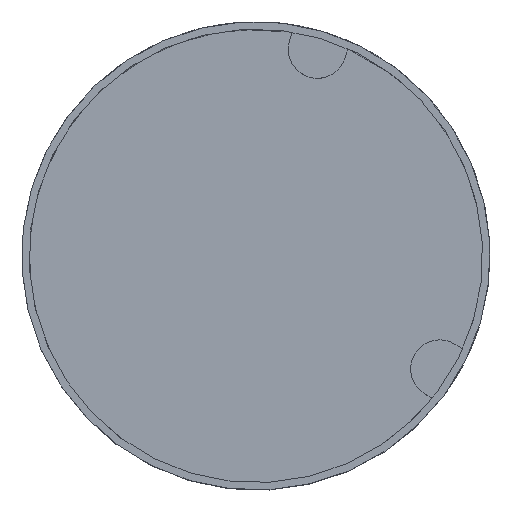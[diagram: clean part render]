
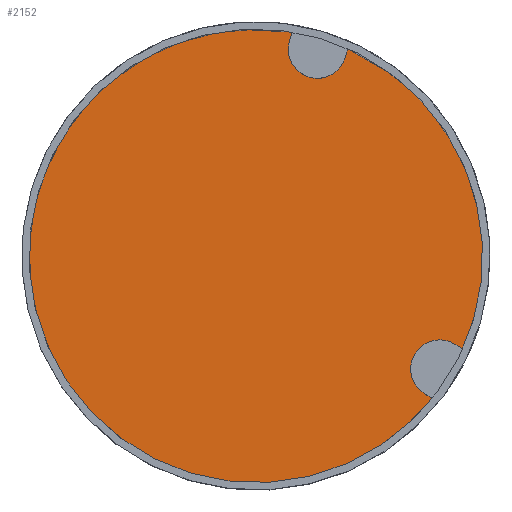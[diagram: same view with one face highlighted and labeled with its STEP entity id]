
A CAD part, top view. The second image highlights one B-rep face of the part: STEP entity #2152.
In plain terms, the highlighted planar face has unit normal (0, 0, 1) as drawn and (0, 0, -1) by its records, which use the part's own axes.
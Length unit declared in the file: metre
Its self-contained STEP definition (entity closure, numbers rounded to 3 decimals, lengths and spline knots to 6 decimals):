
#40 = VERTEX_POINT ( 'NONE', #820 ) ;
#62 = VERTEX_POINT ( 'NONE', #1346 ) ;
#66 = EDGE_CURVE ( 'NONE', #1193, #40, #953, .T. ) ;
#89 = DIRECTION ( 'NONE',  ( 0., 0., 1. ) ) ;
#174 = DIRECTION ( 'NONE',  ( 0.966, 0.259, 0. ) ) ;
#204 = VECTOR ( 'NONE', #1476, 1. ) ;
#245 = AXIS2_PLACEMENT_3D ( 'NONE', #2284, #3731, #2020 ) ;
#261 = VERTEX_POINT ( 'NONE', #928 ) ;
#273 = EDGE_CURVE ( 'NONE', #62, #1193, #2151, .T. ) ;
#282 = ORIENTED_EDGE ( 'NONE', *, *, #2776, .F. ) ;
#315 = AXIS2_PLACEMENT_3D ( 'NONE', #694, #89, #3065 ) ;
#364 = VERTEX_POINT ( 'NONE', #2150 ) ;
#467 = PLANE ( 'NONE',  #2606 ) ;
#483 = CARTESIAN_POINT ( 'NONE',  ( 0., -0.0305, 0.0202 ) ) ;
#575 = CIRCLE ( 'NONE', #1843, 0.0039 ) ;
#694 = CARTESIAN_POINT ( 'NONE',  ( 0., 0., 0.0202 ) ) ;
#705 = EDGE_CURVE ( 'NONE', #261, #2306, #1414, .T. ) ;
#732 = DIRECTION ( 'NONE',  ( 0., 0., 1. ) ) ;
#785 = VERTEX_POINT ( 'NONE', #1666 ) ;
#808 = CARTESIAN_POINT ( 'NONE',  ( -0.0039, 0.03025, 0.0202 ) ) ;
#820 = CARTESIAN_POINT ( 'NONE',  ( 0.0039, 0.03025, 0.0202 ) ) ;
#871 = CARTESIAN_POINT ( 'NONE',  ( -0.027002, -0.011273, 0.0202 ) ) ;
#893 = ORIENTED_EDGE ( 'NONE', *, *, #1964, .T. ) ;
#922 = DIRECTION ( 'NONE',  ( 1., 0., 0. ) ) ;
#928 = CARTESIAN_POINT ( 'NONE',  ( 0.0039, 0.029, 0.0202 ) ) ;
#945 = ORIENTED_EDGE ( 'NONE', *, *, #2046, .F. ) ;
#953 = CIRCLE ( 'NONE', #3579, 0.0305 ) ;
#988 = LINE ( 'NONE', #3691, #2517 ) ;
#1029 = DIRECTION ( 'NONE',  ( 0., -1., 0. ) ) ;
#1148 = ORIENTED_EDGE ( 'NONE', *, *, #66, .F. ) ;
#1193 = VERTEX_POINT ( 'NONE', #483 ) ;
#1266 = LINE ( 'NONE', #1483, #204 ) ;
#1270 = VECTOR ( 'NONE', #174, 1. ) ;
#1346 = CARTESIAN_POINT ( 'NONE',  ( -0.02821, -0.011596, 0.0202 ) ) ;
#1414 = CIRCLE ( 'NONE', #245, 0.0039 ) ;
#1476 = DIRECTION ( 'NONE',  ( 0., -1., 0. ) ) ;
#1483 = CARTESIAN_POINT ( 'NONE',  ( 0.0039, 0.029625, 0.0202 ) ) ;
#1484 = DIRECTION ( 'NONE',  ( 0., 1., 0. ) ) ;
#1567 = EDGE_CURVE ( 'NONE', #2681, #364, #2210, .T. ) ;
#1572 = ORIENTED_EDGE ( 'NONE', *, *, #1567, .T. ) ;
#1666 = CARTESIAN_POINT ( 'NONE',  ( -0.030228, -0.004062, 0.0202 ) ) ;
#1789 = DIRECTION ( 'NONE',  ( 0., 0., 1. ) ) ;
#1825 = ORIENTED_EDGE ( 'NONE', *, *, #1880, .F. ) ;
#1843 = AXIS2_PLACEMENT_3D ( 'NONE', #2229, #732, #3385 ) ;
#1880 = EDGE_CURVE ( 'NONE', #785, #2919, #3275, .T. ) ;
#1883 = DIRECTION ( 'NONE',  ( -0.966, -0.259, 0. ) ) ;
#1924 = ORIENTED_EDGE ( 'NONE', *, *, #2081, .T. ) ;
#1930 = CARTESIAN_POINT ( 'NONE',  ( -0.029021, -0.003739, 0.0202 ) ) ;
#1942 = CARTESIAN_POINT ( 'NONE',  ( -0.030866, -0.030864, 0.0202 ) ) ;
#1964 = EDGE_CURVE ( 'NONE', #2307, #2306, #988, .T. ) ;
#1976 = CARTESIAN_POINT ( 'NONE',  ( 0., 0., 0.0202 ) ) ;
#2020 = DIRECTION ( 'NONE',  ( 1., 0., 0. ) ) ;
#2026 = CARTESIAN_POINT ( 'NONE',  ( -0.0039, 0.029, 0.0202 ) ) ;
#2046 = EDGE_CURVE ( 'NONE', #2681, #62, #2351, .T. ) ;
#2081 = EDGE_CURVE ( 'NONE', #364, #2919, #575, .T. ) ;
#2087 = AXIS2_PLACEMENT_3D ( 'NONE', #2377, #1789, #1484 ) ;
#2096 = AXIS2_PLACEMENT_3D ( 'NONE', #2960, #3254, #922 ) ;
#2110 = ORIENTED_EDGE ( 'NONE', *, *, #705, .F. ) ;
#2150 = CARTESIAN_POINT ( 'NONE',  ( -0.024112, -0.007506, 0.0202 ) ) ;
#2151 = CIRCLE ( 'NONE', #315, 0.0305 ) ;
#2152 = ADVANCED_FACE ( 'NONE', ( #3098 ), #467, .F. ) ;
#2200 = ORIENTED_EDGE ( 'NONE', *, *, #273, .F. ) ;
#2210 = CIRCLE ( 'NONE', #2096, 0.0039 ) ;
#2229 = CARTESIAN_POINT ( 'NONE',  ( -0.028012, -0.007506, 0.0202 ) ) ;
#2284 = CARTESIAN_POINT ( 'NONE',  ( 0., 0.029, 0.0202 ) ) ;
#2306 = VERTEX_POINT ( 'NONE', #2026 ) ;
#2307 = VERTEX_POINT ( 'NONE', #808 ) ;
#2343 = EDGE_LOOP ( 'NONE', ( #1572, #1924, #1825, #282, #893, #2110, #2458, #1148, #2200, #945 ) ) ;
#2351 = LINE ( 'NONE', #2816, #3594 ) ;
#2377 = CARTESIAN_POINT ( 'NONE',  ( 0., 0., 0.0202 ) ) ;
#2458 = ORIENTED_EDGE ( 'NONE', *, *, #2561, .F. ) ;
#2515 = DIRECTION ( 'NONE',  ( 0., 0., 1. ) ) ;
#2517 = VECTOR ( 'NONE', #1029, 1. ) ;
#2539 = DIRECTION ( 'NONE',  ( 1., 0., 0. ) ) ;
#2561 = EDGE_CURVE ( 'NONE', #40, #261, #1266, .T. ) ;
#2606 = AXIS2_PLACEMENT_3D ( 'NONE', #1942, #2773, #2539 ) ;
#2681 = VERTEX_POINT ( 'NONE', #871 ) ;
#2773 = DIRECTION ( 'NONE',  ( 0., 0., 1. ) ) ;
#2776 = EDGE_CURVE ( 'NONE', #2307, #785, #2984, .T. ) ;
#2816 = CARTESIAN_POINT ( 'NONE',  ( -0.027002, -0.011273, 0.0202 ) ) ;
#2919 = VERTEX_POINT ( 'NONE', #3091 ) ;
#2960 = CARTESIAN_POINT ( 'NONE',  ( -0.028012, -0.007506, 0.0202 ) ) ;
#2984 = CIRCLE ( 'NONE', #2087, 0.0305 ) ;
#3065 = DIRECTION ( 'NONE',  ( 0., 1., 0. ) ) ;
#3091 = CARTESIAN_POINT ( 'NONE',  ( -0.029021, -0.003739, 0.0202 ) ) ;
#3098 = FACE_OUTER_BOUND ( 'NONE', #2343, .T. ) ;
#3254 = DIRECTION ( 'NONE',  ( 0., 0., 1. ) ) ;
#3275 = LINE ( 'NONE', #1930, #1270 ) ;
#3385 = DIRECTION ( 'NONE',  ( 1., 0., 0. ) ) ;
#3579 = AXIS2_PLACEMENT_3D ( 'NONE', #1976, #2515, #3599 ) ;
#3594 = VECTOR ( 'NONE', #1883, 1. ) ;
#3599 = DIRECTION ( 'NONE',  ( 0., 1., 0. ) ) ;
#3691 = CARTESIAN_POINT ( 'NONE',  ( -0.0039, 0.029625, 0.0202 ) ) ;
#3731 = DIRECTION ( 'NONE',  ( 0., 0., -1. ) ) ;
